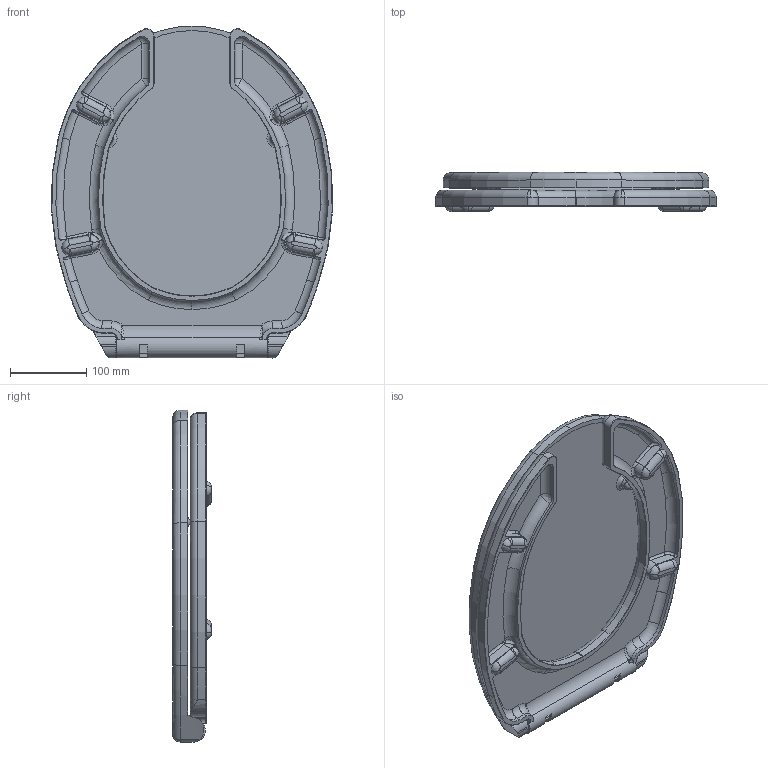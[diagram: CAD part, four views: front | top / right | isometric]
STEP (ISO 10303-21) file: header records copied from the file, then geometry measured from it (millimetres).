
FILE_DESCRIPTION (( 'STEP AP203' ), '1' );
FILE_NAME ('KC4070.STEP', '2018-08-08T08:04:40', ( '' ), ( '' ), 'SwSTEP 2.0', 'SolidWorks 2018', '' );
FILE_SCHEMA (( 'CONFIG_CONTROL_DESIGN' ));
Length unit declared in the file: millimetre
Products named in the file (1): KC4070
Bounding box: 368.47 x 51 x 435.29 mm (x, y, z)
Volume: 1614296.2 mm3; surface area: 520964.8 mm2
Topology: 4 solids, 4 shells, 361 faces, 932 edges, 569 vertices
Faces by surface type: cylinder 141, torus 117, plane 63, bspline 30, sphere 10
Entity records: 16834 total; most frequent: CARTESIAN_POINT 8059, DIRECTION 1934, ORIENTED_EDGE 1828, EDGE_CURVE 914, AXIS2_PLACEMENT_3D 833, VERTEX_POINT 565, CIRCLE 501, EDGE_LOOP 371
